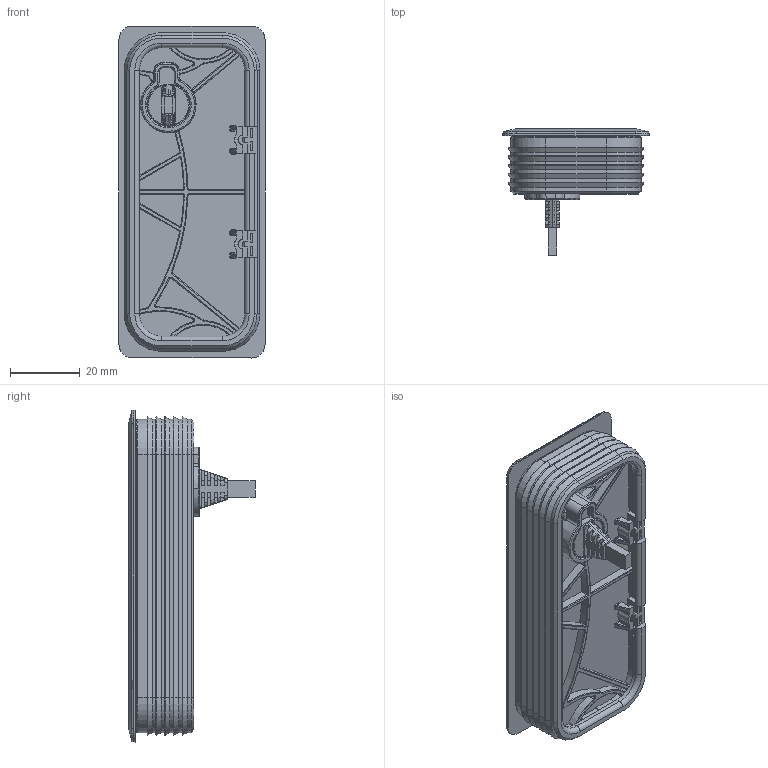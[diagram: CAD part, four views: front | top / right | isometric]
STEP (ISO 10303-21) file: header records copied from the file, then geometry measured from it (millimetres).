
FILE_DESCRIPTION (( 'STEP AP214' ), '1' );
FILE_NAME ('LOG-TOUCH-IL_rev11111.STEP', '2014-09-30T13:23:28', ( '' ), ( '' ), 'SwSTEP 2.0', 'SolidWorks 2014', '' );
FILE_SCHEMA (( 'AUTOMOTIVE_DESIGN' ));
Length unit declared in the file: millimetre
Products named in the file (1): LOG-TOUCH-IL_rev11111
Bounding box: 42 x 36.3 x 95.4 mm (x, y, z)
Volume: 49420.3 mm3; surface area: 18815.7 mm2
Topology: 1 solids, 2 shells, 865 faces, 2290 edges, 1437 vertices
Faces by surface type: plane 398, cylinder 183, bspline 145, cone 72, torus 67
Entity records: 46971 total; most frequent: CARTESIAN_POINT 17254, ORIENTED_EDGE 4580, DIRECTION 3773, EDGE_CURVE 2290, VERTEX_POINT 1437, LINE 1317, VECTOR 1317, AXIS2_PLACEMENT_3D 1228
